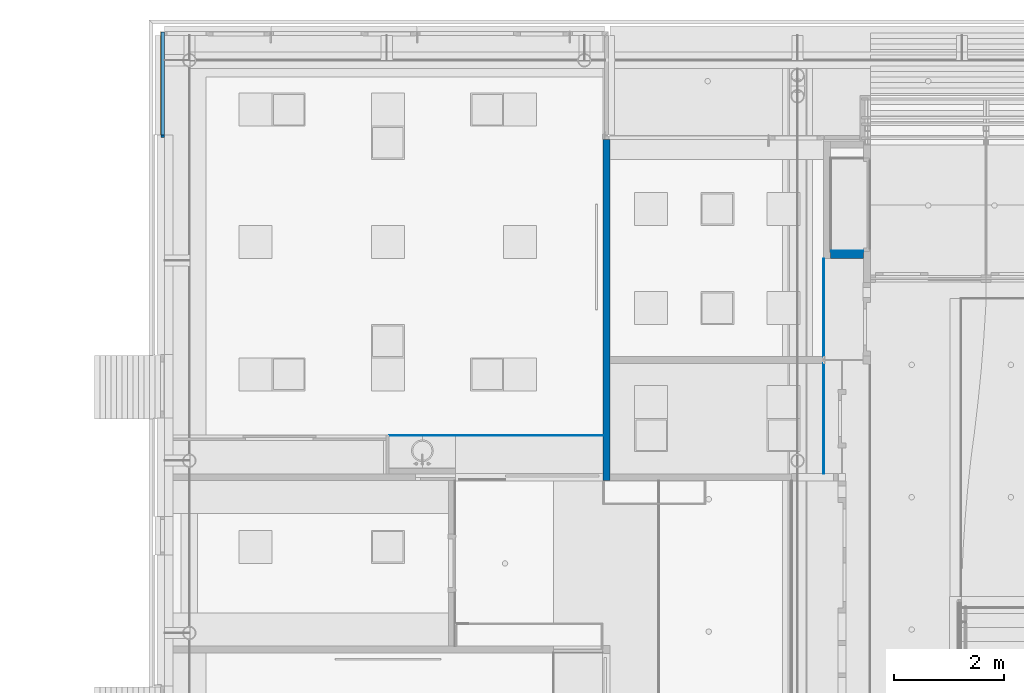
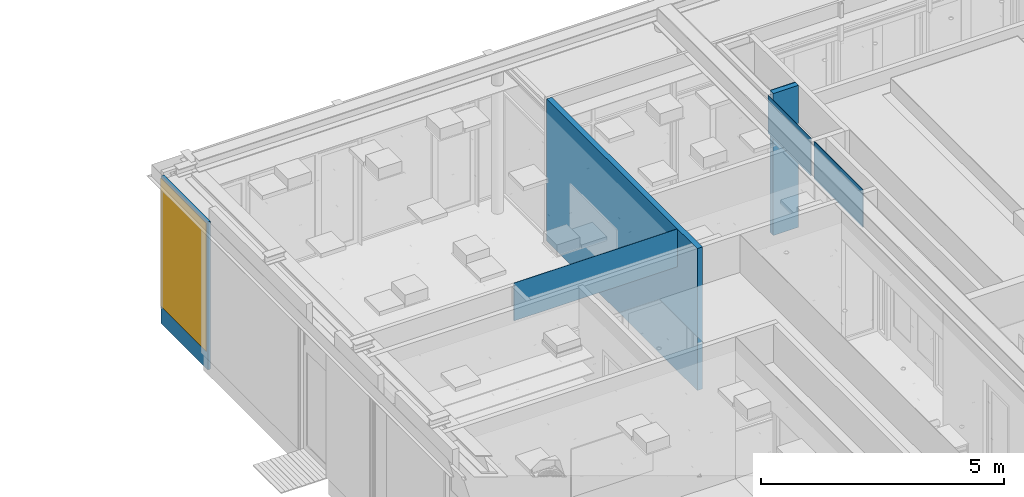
# One storey, part 79 of 347: 6 walls, 1 window, 1 opening.
"""IFC2X3 building model written with IfcOpenShell, lengths in millimetres."""

from ifc_helpers import new_model, entity, si_unit, converted_unit, derived_unit, money_unit, direction, frame, origin_with_axes, place, context, subcontext, project, spatial, open_shell, faceted_brep, surface_model, material, type_object, element, fill, save


model = new_model("IFC2X3")

# Units and contexts
model_context = context("Model", 3, precision=0.01, world=origin_with_axes(), true_north=direction((0.0, 1.0)))
plan_context = context("Plan", 3, precision=0.01, world=origin_with_axes(), true_north=direction((0.0, 1.0)))
body_context = subcontext(model_context, "Body", "Model", "MODEL_VIEW")
ifc_project = project(units=[si_unit("LENGTHUNIT", "METRE", prefix="MILLI"), si_unit("AREAUNIT", "SQUARE_METRE"), si_unit("VOLUMEUNIT", "CUBIC_METRE"), converted_unit("PLANEANGLEUNIT", "DEGREE", entity("IfcPlaneAngleMeasure", 0.0174532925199), si_unit("PLANEANGLEUNIT", "RADIAN"), dimensions=[0, 0, 0, 0, 0, 0, 0]), money_unit("EUR"), converted_unit("TIMEUNIT", "Year", entity("IfcTimeMeasure", 31556926.0), si_unit("TIMEUNIT", "SECOND"), dimensions=[0, 0, 1, 0, 0, 0, 0]), si_unit("MASSUNIT", "GRAM", prefix="KILO"), si_unit("THERMODYNAMICTEMPERATUREUNIT", "DEGREE_CELSIUS"), si_unit("LUMINOUSINTENSITYUNIT", "LUMEN"), si_unit("ENERGYUNIT", "JOULE", prefix="MEGA"), derived_unit("THERMALCONDUCTANCEUNIT", [(si_unit("POWERUNIT", "WATT"), 1), (si_unit("LENGTHUNIT", "METRE"), -1), (si_unit("THERMODYNAMICTEMPERATUREUNIT", "KELVIN"), -1)]), derived_unit("SPECIFICHEATCAPACITYUNIT", [(si_unit("ENERGYUNIT", "JOULE"), 1), (si_unit("MASSUNIT", "GRAM", prefix="KILO"), -1), (si_unit("THERMODYNAMICTEMPERATUREUNIT", "KELVIN"), -1)]), derived_unit("MASSDENSITYUNIT", [(si_unit("MASSUNIT", "GRAM", prefix="KILO"), 1), (si_unit("VOLUMEUNIT", "CUBIC_METRE"), -1)])], contexts=[model_context, plan_context])

# Site, building, storey
site_placement = place(None, origin_with_axes())
site = spatial("IfcSite", under=ifc_project, at=site_placement, Name="Site", CompositionType="ELEMENT")
building_placement = place(site_placement, origin_with_axes())
building = spatial("IfcBuilding", under=site, at=building_placement, Name="Naam gebouw", CompositionType="ELEMENT")
storey_placement = place(building_placement, origin_with_axes())
storey = spatial("IfcBuildingStorey", under=building, at=storey_placement, Name="begane grond", CompositionType="ELEMENT", Elevation=0.0)

# Walls
ifc_material_1 = material(Name="ALG - LICHTE SCHEIDINGSWAND")
wall_type_1 = type_object("IfcWallType", Name="ALG LSW 125 125", PredefinedType="NOTDEFINED")
wall_1_placement = place(storey_placement, frame((32075.0, 39025.0, 0.0), z_axis=(0.0, 0.0, 1.0), x_axis=(0.0, 1.0, 0.0)))
element("IfcWall", 1, at=wall_1_placement, inside=storey, type_object=wall_type_1, material=ifc_material_1, Name="22_GF 125 ECO DGS/2.75.2A", context=body_context, shape_type="Brep", body=[
    faceted_brep([(-62.5, -125.0, 3560.0), (6128.0, -125.0, 3560.0), (6128.0, 0.0, 3560.0), (-62.5, 0.0, 3560.0), (-62.5, -125.0, 0.0), (6128.0, -125.0, 0.0), (6128.0, 0.0, 0.0), (-62.5, 0.0, 0.0)], [[[0, 1, 2, 3]], [[4, 5, 1, 0]], [[2, 1, 5, 6]], [[3, 2, 6, 7]], [[4, 0, 3, 7]], [[7, 6, 5, 4]]]),
])
wall_2_placement = place(storey_placement, frame((36925.0, 42990.5, 0.0), z_axis=(0.0, 0.0, 1.0), x_axis=(-1.0, 0.0, 0.0)))
element("IfcWall", 2, at=wall_2_placement, inside=storey, type_object=wall_type_1, material=ifc_material_1, Name="22_GF 125 ECO DGS/2.75.2A", context=body_context, shape_type="Brep", body=[
    faceted_brep([(725.0, -125.0, 0.0), (725.0, -125.0, 3560.0), (125.0, -125.0, 3560.0), (125.0, -125.0, 0.0), (725.0, 0.0, 0.0), (725.0, 0.0, 3560.0), (125.0, 0.0, 3560.0), (125.0, 0.0, 0.0)], [[[0, 1, 2, 3]], [[4, 5, 1, 0]], [[2, 1, 5, 6]], [[6, 7, 3, 2]], [[7, 4, 0, 3]], [[6, 5, 4, 7]]]),
])
wall_type_2 = type_object("IfcWallType", Name="44 koof 50", PredefinedType="NOTDEFINED")
wall_3_placement = place(storey_placement, frame((36075.0, 42990.5, 2600.0), z_axis=(0.0, 0.0, 1.0), x_axis=(0.0, -1.0, 0.0)))
element("IfcWall", 3, at=wall_3_placement, inside=storey, type_object=wall_type_2, material=ifc_material_1, Name="21_22 betonwand", context=body_context, shape_type="Brep", body=[
    faceted_brep([(1778.0, 12.0, 960.0), (1778.0, 12.0, 12.0), (0.0, 12.0, 12.0), (0.0, 12.0, 960.0), (1778.0, 0.0, 960.0), (1778.0, -0.000169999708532, 12.0), (0.0, 4.54932944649e-05, 12.0), (0.0, 0.0, 960.0)], [[[0, 1, 2, 3]], [[4, 5, 1, 0]], [[5, 6, 2, 1]], [[3, 2, 6, 7]], [[4, 0, 3, 7]], [[7, 6, 5, 4]]]),
    faceted_brep([(3903.0, 12.0, 960.0), (3903.0, 12.0, 12.0), (1903.0, 12.0, 12.0), (1903.0, 12.0, 960.0), (3903.0, 0.0, 960.0), (3903.0, -0.00042754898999, 12.0), (1903.0, -0.000185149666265, 12.0), (1903.0, 0.0, 960.0)], [[[0, 1, 2, 3]], [[4, 5, 1, 0]], [[5, 6, 2, 1]], [[3, 2, 6, 7]], [[0, 3, 7, 4]], [[7, 6, 5, 4]]]),
])
wall_4_placement = place(storey_placement, frame((28200.0, 39787.5, 2600.0), z_axis=(0.0, 0.0, 1.0), x_axis=(1.0, 0.0, 0.0)))
element("IfcWall", 4, at=wall_4_placement, inside=storey, type_object=wall_type_2, material=ifc_material_1, Name="21_23 betonwand", context=body_context, shape_type="Brep", body=[
    faceted_brep([(3875.0, -12.0, 960.0), (3875.0, -12.0, 12.0), (3875.0, 0.0, 12.0), (3875.0, 0.0, 960.0), (0.0, -12.0, 959.999999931), (0.0, -12.0, 12.0), (0.0, 0.0, 12.0), (0.0, 0.0, 959.999999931)], [[[0, 1, 2, 3]], [[4, 5, 1, 0]], [[5, 6, 2, 1]], [[3, 2, 6, 7]], [[0, 3, 7, 4]], [[7, 6, 5, 4]]]),
])
ifc_material_2 = material(Name="Hout - Spaanplaat slave")
wall_type_3 = type_object("IfcWallType", Name="Hout - Spaanplaat slave 18", PredefinedType="NOTDEFINED")
wall_5_placement = place(storey_placement, frame((36925.0, 43115.5, 0.0), z_axis=(0.0, 0.0, 1.0), x_axis=(-1.0, 0.0, 0.0)))
element("IfcWall", 5, at=wall_5_placement, inside=storey, type_object=wall_type_3, material=ifc_material_2, Name="22_GF 125 ECO DGS/2.75.3A", context=body_context, shape_type="Brep", body=[
    faceted_brep([(125.0, -18.0, 0.0), (707.0, -18.0, 0.0), (707.0, -18.0, 3560.0), (125.0, -18.0, 3560.0), (125.0, 0.0, 0.0), (707.0, 0.0, 0.0), (707.0, 0.0, 3560.0), (125.0, 0.0, 3560.0)], [[[0, 1, 2, 3]], [[4, 5, 1, 0]], [[1, 5, 6, 2]], [[2, 6, 7, 3]], [[4, 0, 3, 7]], [[5, 4, 7, 6]]]),
])

# Wall, opening, window
ifc_material_3 = material(Name="31 pui/kozijn")
wall_type_4 = type_object("IfcWallType", Name="31 pui/kozijn 62", PredefinedType="NOTDEFINED")
wall_6_placement = place(storey_placement, frame((24125.0, 47036.9999775, -450.0), z_axis=(0.0, 0.0, 1.0), x_axis=(0.0, -1.0, 0.0)))
wall_6 = element("IfcWall", 6, at=wall_6_placement, inside=storey, type_object=wall_type_4, material=ifc_material_3, Name="21_21 betonwand", context=body_context, shape_type="Brep", body=[
    faceted_brep([(1801.9999775, -1.16028076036e-07, 440.0), (1801.9999775, -1.16028076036e-07, 3650.0), (0.0, 0.0, 3650.0), (-62.0, 3.99325017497e-09, 3650.0), (-62.0, 3.99325017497e-09, 3710.0), (1851.9999775, -1.19246834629e-07, 3710.0), (1851.9999775, -1.19246834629e-07, 0.0), (-62.0, 3.99325017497e-09, 0.0), (-62.0, 3.99325017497e-09, 440.0), (0.0, 0.0, 440.0), (1801.9999775, -62.000000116, 440.0), (1801.9999775, -62.000000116, 3650.0), (-62.0, -61.999999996, 3650.0), (-62.000000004, -61.999999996, 3710.0), (1851.9999775, -62.0000001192, 3710.0), (1851.9999775, -62.0000001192, 0.0), (-62.000000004, -61.999999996, 0.0), (-62.0, -61.999999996, 440.0)], [[[0, 1, 2, 3, 4, 5, 6, 7, 8, 9]], [[1, 0, 10, 11]], [[2, 1, 11, 12, 3]], [[3, 12, 13, 4]], [[4, 13, 14, 5]], [[6, 5, 14, 15]], [[16, 7, 6, 15]], [[17, 8, 7, 16]], [[17, 10, 0, 9, 8]], [[10, 17, 16, 15, 14, 13, 12, 11]]]),
])
opening_placement = place(wall_6_placement, frame((900.999977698, 5.80122616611e-08, 440.0), z_axis=(0.0, 0.0, 1.0), x_axis=(1.0, 0.0, 0.0)))
opening = element("IfcOpeningElement", 7, at=opening_placement, cuts=wall_6, Name="32_merk-AN6", context=body_context, shape_type="Brep", body=[
    faceted_brep([(900.99999981, 61.999999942, 0.0), (900.99999981, 61.999999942, 3210.0), (900.999999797, -134.000000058, 3210.0), (900.999999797, -134.000000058, 0.0), (-838.99997764, 62.000000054, 0.0), (-838.99997764, 62.000000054, 3210.0), (-962.999999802, -62.0000221, 3210.0), (-962.999999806, -133.999999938, 3210.0), (-962.999999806, -133.999999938, 0.0), (-962.999999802, -62.0000221, 0.0)], [[[0, 1, 2, 3]], [[0, 4, 5, 1]], [[1, 5, 6, 7, 2]], [[3, 2, 7, 8]], [[4, 0, 3, 8, 9]], [[5, 4, 9, 6]], [[9, 8, 7, 6]]]),
])
window_style = type_object("IfcWindowStyle", Name="Rmeerkeuze 25", ConstructionType="NOTDEFINED", OperationType="DOUBLE_PANEL_HORIZONTAL", ParameterTakesPrecedence=False, Sizeable=False)
window_placement = place(opening_placement, frame((-900.999999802, -5.80122616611e-08, 0.0), z_axis=(0.0, 0.0, 1.0), x_axis=(1.0, 0.0, 0.0)))
window = element("IfcWindow", 8, at=window_placement, inside=storey, type_object=window_style, Name="32_merk-AN6", ObjectType="WINDOW", OverallHeight=3210.0, OverallWidth=1802.0, context=body_context, shape_type="SurfaceModel", body=[
    faceted_brep([(-72.0000000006, -71.9999999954, 54.0), (48.9999999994, -72.0000000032, 54.0), (48.9999999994, -72.0000000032, 2556.0), (48.9999999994, -72.0000000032, 2610.0), (48.9999999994, -72.0000000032, 3156.0), (-72.0000000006, -71.9999999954, 3156.0), (3.99325017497e-09, 0.0, 54.0), (49.000000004, -3.15480974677e-09, 54.0), (49.000000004, -3.15480974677e-09, 2556.0), (49.000000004, -3.15480974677e-09, 2610.0), (49.000000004, -3.15480974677e-09, 3156.0), (3.99325017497e-09, 0.0, 3156.0)], [[[0, 1, 2, 3, 4, 5]], [[0, 6, 7, 1]], [[2, 1, 7, 8]], [[3, 2, 8, 9]], [[4, 3, 9, 10]], [[5, 4, 10, 11]], [[6, 0, 5, 11]], [[6, 11, 10, 9, 8, 7]]]),
    faceted_brep([(1747.9999996, -72.0000001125, 54.0), (1747.99999961, -1.12549969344e-07, 54.0), (1801.99999961, -1.16028076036e-07, 54.0), (1801.9999996, -72.000000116, 54.0), (1747.9999996, -72.0000001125, 2556.0), (1747.99999961, -1.12549969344e-07, 2556.0), (1747.99999961, -1.12549969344e-07, 2610.0), (1747.99999961, -1.12549969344e-07, 3156.0), (1801.99999961, -1.16028076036e-07, 3156.0), (1801.9999996, -72.000000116, 3156.0), (1747.9999996, -72.0000001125, 3156.0), (1747.9999996, -72.0000001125, 2610.0)], [[[0, 1, 2, 3]], [[4, 5, 1, 0]], [[1, 5, 6, 7, 8, 2]], [[3, 2, 8, 9]], [[0, 3, 9, 10, 11, 4]], [[11, 6, 5, 4]], [[10, 7, 6, 11]], [[9, 8, 7, 10]]]),
    faceted_brep([(48.9999999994, -72.0000000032, 2610.0), (49.000000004, -3.15480974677e-09, 2610.0), (49.000000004, -3.15480974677e-09, 2556.0), (48.9999999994, -72.0000000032, 2556.0), (1747.9999996, -72.0000001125, 2610.0), (1747.99999961, -1.12549969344e-07, 2610.0), (1747.99999961, -1.12549969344e-07, 2556.0), (1747.9999996, -72.0000001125, 2556.0)], [[[0, 1, 2, 3]], [[4, 5, 1, 0]], [[1, 5, 6, 2]], [[3, 2, 6, 7]], [[0, 3, 7, 4]], [[7, 6, 5, 4]]]),
    faceted_brep([(3.99325017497e-09, 0.0, 0.0), (-72.0000000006, -71.9999999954, 0.0), (-72.0000000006, -71.9999999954, 54.0), (3.99325017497e-09, 0.0, 54.0), (1801.99999961, -1.16028076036e-07, 0.0), (1801.9999996, -72.000000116, 0.0), (1801.9999996, -72.000000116, 54.0), (1747.9999996, -72.0000001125, 54.0), (48.9999999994, -72.0000000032, 54.0), (49.000000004, -3.15480974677e-09, 54.0), (1747.99999961, -1.12549969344e-07, 54.0), (1801.99999961, -1.16028076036e-07, 54.0)], [[[0, 1, 2, 3]], [[1, 0, 4, 5]], [[2, 1, 5, 6, 7, 8]], [[9, 3, 2, 8]], [[0, 3, 9, 10, 11, 4]], [[6, 5, 4, 11]], [[10, 7, 6, 11]], [[8, 7, 10, 9]]]),
    faceted_brep([(3.99325017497e-09, 0.0, 3156.0), (49.000000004, -3.15480974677e-09, 3156.0), (48.9999999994, -72.0000000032, 3156.0), (-72.0000000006, -71.9999999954, 3156.0), (3.99325017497e-09, 0.0, 3210.0), (1801.99999961, -1.16028076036e-07, 3210.0), (1801.99999961, -1.16028076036e-07, 3156.0), (1747.99999961, -1.12549969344e-07, 3156.0), (1747.9999996, -72.0000001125, 3156.0), (1801.9999996, -72.000000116, 3156.0), (1801.9999996, -72.000000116, 3210.0), (-72.0000000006, -71.9999999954, 3210.0)], [[[0, 1, 2, 3]], [[1, 0, 4, 5, 6, 7]], [[8, 2, 1, 7]], [[3, 2, 8, 9, 10, 11]], [[0, 3, 11, 4]], [[4, 11, 10, 5]], [[10, 9, 6, 5]], [[9, 8, 7, 6]]]),
    surface_model("IfcShellBasedSurfaceModel", [(48.9999999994, -72.0000000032, 2610.0), (1747.9999996, -72.0000001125, 2610.0), (1747.9999996, -72.0000001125, 3156.0), (48.9999999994, -72.0000000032, 3156.0)], [open_shell([[[0, 1, 2, 3]]])]),
    surface_model("IfcShellBasedSurfaceModel", [(49.0000000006, -52.0000000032, 2610.0), (49.0000000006, -52.0000000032, 3156.0), (1747.9999996, -52.0000001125, 3156.0), (1747.9999996, -52.0000001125, 2610.0)], [open_shell([[[0, 1, 2, 3]]])]),
    surface_model("IfcShellBasedSurfaceModel", [(48.9999999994, -72.0000000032, 54.0), (1747.9999996, -72.0000001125, 54.0), (1747.9999996, -72.0000001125, 2556.0), (48.9999999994, -72.0000000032, 2556.0)], [open_shell([[[0, 1, 2, 3]]])]),
    surface_model("IfcShellBasedSurfaceModel", [(49.0000000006, -52.0000000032, 54.0), (49.0000000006, -52.0000000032, 2556.0), (1747.9999996, -52.0000001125, 2556.0), (1747.9999996, -52.0000001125, 54.0)], [open_shell([[[0, 1, 2, 3]]])]),
])
fill(opening, window)

save(model, "model.ifc")
